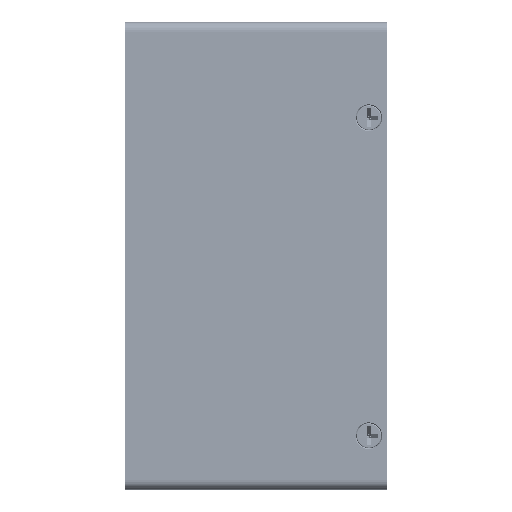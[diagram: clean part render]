
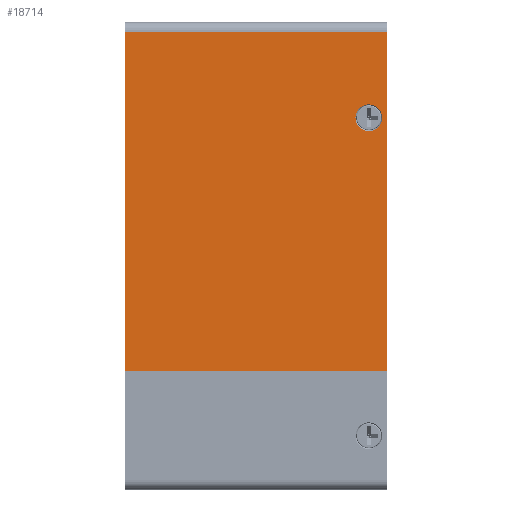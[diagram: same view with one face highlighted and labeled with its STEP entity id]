
A CAD part, left-side view. The second image highlights one B-rep face of the part: STEP entity #18714.
In plain terms, the highlighted planar face has unit normal (-1, 0, 0).
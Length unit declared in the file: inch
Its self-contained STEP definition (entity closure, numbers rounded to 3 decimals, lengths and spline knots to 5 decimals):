
#2782 = FACE_OUTER_BOUND ( 'NONE', #109615, .T. ) ;
#3719 = DIRECTION ( 'NONE',  ( 0., -1., 0. ) ) ;
#5716 = LINE ( 'NONE', #125942, #35275 ) ;
#6975 = ORIENTED_EDGE ( 'NONE', *, *, #9220, .F. ) ;
#7971 = DIRECTION ( 'NONE',  ( 0., -1., 0. ) ) ;
#8424 = EDGE_CURVE ( 'NONE', #129398, #92384, #106804, .T. ) ;
#9220 = EDGE_CURVE ( 'NONE', #92384, #129398, #98016, .T. ) ;
#13006 = AXIS2_PLACEMENT_3D ( 'NONE', #141079, #74590, #7971 ) ;
#13278 = EDGE_CURVE ( 'NONE', #142687, #132420, #5716, .T. ) ;
#17178 = CARTESIAN_POINT ( 'NONE',  ( -1.9685, 0.2625, 1.164 ) ) ;
#18714 = ADVANCED_FACE ( 'NONE', ( #117651, #2782 ), #140603, .T. ) ;
#23207 = CARTESIAN_POINT ( 'NONE',  ( -1.9685, 2.2, 1.889 ) ) ;
#25208 = ORIENTED_EDGE ( 'NONE', *, *, #95358, .T. ) ;
#25639 = VECTOR ( 'NONE', #140848, 39.37008 ) ;
#28102 = CARTESIAN_POINT ( 'NONE',  ( -1.9685, 0., 1.889 ) ) ;
#35275 = VECTOR ( 'NONE', #59390, 39.37008 ) ;
#36504 = VERTEX_POINT ( 'NONE', #136126 ) ;
#38892 = ORIENTED_EDGE ( 'NONE', *, *, #13278, .T. ) ;
#40848 = DIRECTION ( 'NONE',  ( 0., 0., -1. ) ) ;
#41111 = VERTEX_POINT ( 'NONE', #68408 ) ;
#42315 = AXIS2_PLACEMENT_3D ( 'NONE', #130942, #64459, #142094 ) ;
#46549 = EDGE_LOOP ( 'NONE', ( #77126, #6975 ) ) ;
#59390 = DIRECTION ( 'NONE',  ( 0., 1., 0. ) ) ;
#63207 = CARTESIAN_POINT ( 'NONE',  ( -1.9685, 2.2, -0.9695 ) ) ;
#64459 = DIRECTION ( 'NONE',  ( -1., 0., 0. ) ) ;
#68087 = EDGE_CURVE ( 'NONE', #36504, #41111, #114327, .T. ) ;
#68408 = CARTESIAN_POINT ( 'NONE',  ( -1.9685, 2.2, -0.9695 ) ) ;
#70398 = DIRECTION ( 'NONE',  ( -1., 0., 0. ) ) ;
#74433 = CARTESIAN_POINT ( 'NONE',  ( -1.9685, 2.2, -0.01732 ) ) ;
#74590 = DIRECTION ( 'NONE',  ( -1., 0., 0. ) ) ;
#77126 = ORIENTED_EDGE ( 'NONE', *, *, #8424, .F. ) ;
#83067 = DIRECTION ( 'NONE',  ( 0., 0., -1. ) ) ;
#83159 = AXIS2_PLACEMENT_3D ( 'NONE', #136930, #70398, #3719 ) ;
#83643 = EDGE_CURVE ( 'NONE', #142687, #36504, #88335, .T. ) ;
#88335 = LINE ( 'NONE', #28102, #143844 ) ;
#92384 = VERTEX_POINT ( 'NONE', #17178 ) ;
#95358 = EDGE_CURVE ( 'NONE', #132420, #41111, #141285, .T. ) ;
#98016 = CIRCLE ( 'NONE', #42315, 0.1125 ) ;
#106804 = CIRCLE ( 'NONE', #83159, 0.1125 ) ;
#108292 = VECTOR ( 'NONE', #40848, 39.37008 ) ;
#109615 = EDGE_LOOP ( 'NONE', ( #122791, #121996, #38892, #25208 ) ) ;
#114327 = LINE ( 'NONE', #63207, #25639 ) ;
#117651 = FACE_BOUND ( 'NONE', #46549, .T. ) ;
#121996 = ORIENTED_EDGE ( 'NONE', *, *, #83643, .F. ) ;
#122791 = ORIENTED_EDGE ( 'NONE', *, *, #68087, .F. ) ;
#125942 = CARTESIAN_POINT ( 'NONE',  ( -1.9685, 2.2, 1.889 ) ) ;
#127659 = CARTESIAN_POINT ( 'NONE',  ( -1.9685, 0.0375, 1.164 ) ) ;
#129398 = VERTEX_POINT ( 'NONE', #127659 ) ;
#130942 = CARTESIAN_POINT ( 'NONE',  ( -1.9685, 0.15, 1.164 ) ) ;
#132420 = VERTEX_POINT ( 'NONE', #23207 ) ;
#136126 = CARTESIAN_POINT ( 'NONE',  ( -1.9685, 0., -0.9695 ) ) ;
#136930 = CARTESIAN_POINT ( 'NONE',  ( -1.9685, 0.15, 1.164 ) ) ;
#140603 = PLANE ( 'NONE',  #13006 ) ;
#140848 = DIRECTION ( 'NONE',  ( 0., 1., 0. ) ) ;
#141079 = CARTESIAN_POINT ( 'NONE',  ( -1.9685, 2.2, 0.45975 ) ) ;
#141285 = LINE ( 'NONE', #74433, #108292 ) ;
#142094 = DIRECTION ( 'NONE',  ( 0., -1., 0. ) ) ;
#142687 = VERTEX_POINT ( 'NONE', #143216 ) ;
#143216 = CARTESIAN_POINT ( 'NONE',  ( -1.9685, 0., 1.889 ) ) ;
#143844 = VECTOR ( 'NONE', #83067, 39.37008 ) ;
